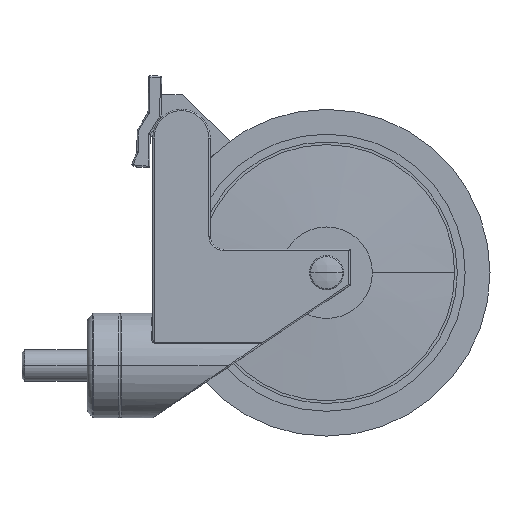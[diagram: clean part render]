
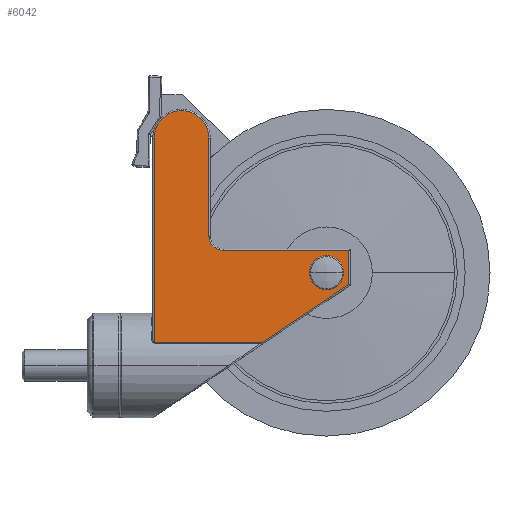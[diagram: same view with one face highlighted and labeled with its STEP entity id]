
A CAD part, left-side view. The second image highlights one B-rep face of the part: STEP entity #6042.
In plain terms, the highlighted planar face has unit normal (-1, 0, 0).
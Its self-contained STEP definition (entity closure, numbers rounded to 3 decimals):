
#186 = CARTESIAN_POINT ( 'NONE',  ( -18., 97.5, 36. ) ) ;
#214 = CARTESIAN_POINT ( 'NONE',  ( -18., 30.969, 100. ) ) ;
#215 = CARTESIAN_POINT ( 'NONE',  ( -18., 8.832, 67.036 ) ) ;
#216 = CARTESIAN_POINT ( 'NONE',  ( -18., 8.832, 25.5 ) ) ;
#217 = CARTESIAN_POINT ( 'NONE',  ( -18., 87., 25.5 ) ) ;
#218 = CARTESIAN_POINT ( 'NONE',  ( -18., 87., 46.5 ) ) ;
#219 = CARTESIAN_POINT ( 'NONE',  ( -18., 49.5, 46.5 ) ) ;
#220 = CARTESIAN_POINT ( 'NONE',  ( -18., 44., 52. ) ) ;
#221 = CARTESIAN_POINT ( 'NONE',  ( -18., 44., 100. ) ) ;
#274 = CARTESIAN_POINT ( 'NONE',  ( -18., 42., 91.5 ) ) ;
#275 = CARTESIAN_POINT ( 'NONE',  ( -18., 29., 91.5 ) ) ;
#1414 = PLANE ( 'NONE',  #3585 ) ;
#1417 = CARTESIAN_POINT ( 'NONE',  ( -18., 98., 258.403 ) ) ;
#1429 = DIRECTION ( 'NONE',  ( -1., 0., 0. ) ) ;
#1430 = DIRECTION ( 'NONE',  ( 0., -1., 0. ) ) ;
#2609 = EDGE_LOOP ( 'NONE', ( #4983, #4984 ) ) ;
#2613 = EDGE_LOOP ( 'NONE', ( #4974, #4975, #4976, #4977, #4978, #4979, #4980, #4981, #4982 ) ) ;
#2856 = EDGE_CURVE ( 'NONE', #4449, #4445, #5038, .T. ) ;
#2918 = EDGE_CURVE ( 'NONE', #3746, #3743, #5122, .T. ) ;
#2920 = EDGE_CURVE ( 'NONE', #3743, #3740, #5104, .T. ) ;
#2921 = EDGE_CURVE ( 'NONE', #3753, #3750, #5125, .T. ) ;
#2922 = EDGE_CURVE ( 'NONE', #3755, #3753, #5129, .T. ) ;
#2923 = EDGE_CURVE ( 'NONE', #3855, #3755, #5117, .T. ) ;
#2924 = EDGE_CURVE ( 'NONE', #3750, #3746, #5130, .T. ) ;
#2925 = EDGE_CURVE ( 'NONE', #3740, #3737, #5120, .T. ) ;
#2926 = EDGE_CURVE ( 'NONE', #3737, #3734, #5131, .T. ) ;
#2927 = EDGE_CURVE ( 'NONE', #3734, #3855, #5133, .T. ) ;
#2929 = EDGE_CURVE ( 'NONE', #4445, #4449, #5138, .T. ) ;
#3271 = AXIS2_PLACEMENT_3D ( 'NONE', #4564, #4551, #4550 ) ;
#3297 = AXIS2_PLACEMENT_3D ( 'NONE', #4281, #4280, #4279 ) ;
#3300 = AXIS2_PLACEMENT_3D ( 'NONE', #4255, #4253, #4252 ) ;
#3301 = AXIS2_PLACEMENT_3D ( 'NONE', #4288, #4270, #4269 ) ;
#3303 = AXIS2_PLACEMENT_3D ( 'NONE', #4277, #4266, #4265 ) ;
#3585 = AXIS2_PLACEMENT_3D ( 'NONE', #1417, #1429, #1430 ) ;
#3734 = VERTEX_POINT ( 'NONE', #214 ) ;
#3737 = VERTEX_POINT ( 'NONE', #215 ) ;
#3740 = VERTEX_POINT ( 'NONE', #216 ) ;
#3743 = VERTEX_POINT ( 'NONE', #217 ) ;
#3746 = VERTEX_POINT ( 'NONE', #186 ) ;
#3750 = VERTEX_POINT ( 'NONE', #218 ) ;
#3753 = VERTEX_POINT ( 'NONE', #219 ) ;
#3755 = VERTEX_POINT ( 'NONE', #220 ) ;
#3855 = VERTEX_POINT ( 'NONE', #221 ) ;
#4252 = DIRECTION ( 'NONE',  ( 0., -1., 0. ) ) ;
#4253 = DIRECTION ( 'NONE',  ( -1., 0., 0. ) ) ;
#4255 = CARTESIAN_POINT ( 'NONE',  ( -18., 35.5, 91.5 ) ) ;
#4259 = DIRECTION ( 'NONE',  ( 0., 1., 0. ) ) ;
#4260 = CARTESIAN_POINT ( 'NONE',  ( -18., 44.5, 100. ) ) ;
#4261 = DIRECTION ( 'NONE',  ( 0., 0.558, 0.83 ) ) ;
#4262 = CARTESIAN_POINT ( 'NONE',  ( -18., 31.118, 100.221 ) ) ;
#4263 = DIRECTION ( 'NONE',  ( 0., 0., 1. ) ) ;
#4264 = CARTESIAN_POINT ( 'NONE',  ( -18., 8.832, 258.403 ) ) ;
#4265 = DIRECTION ( 'NONE',  ( 0., -1., 0. ) ) ;
#4266 = DIRECTION ( 'NONE',  ( -1., 0., 0. ) ) ;
#4267 = DIRECTION ( 'NONE',  ( 0., 0., -1. ) ) ;
#4268 = CARTESIAN_POINT ( 'NONE',  ( -18., 44., 52. ) ) ;
#4269 = DIRECTION ( 'NONE',  ( 0., -1., 0. ) ) ;
#4270 = DIRECTION ( 'NONE',  ( 1., 0., 0. ) ) ;
#4271 = DIRECTION ( 'NONE',  ( 0., 1., 0. ) ) ;
#4272 = CARTESIAN_POINT ( 'NONE',  ( -18., 87., 46.5 ) ) ;
#4273 = DIRECTION ( 'NONE',  ( 0., -1., 0. ) ) ;
#4274 = CARTESIAN_POINT ( 'NONE',  ( -18., 8.718, 25.5 ) ) ;
#4277 = CARTESIAN_POINT ( 'NONE',  ( -18., 87., 36. ) ) ;
#4279 = DIRECTION ( 'NONE',  ( 0., -1., 0. ) ) ;
#4280 = DIRECTION ( 'NONE',  ( -1., 0., 0. ) ) ;
#4281 = CARTESIAN_POINT ( 'NONE',  ( -18., 87., 36. ) ) ;
#4288 = CARTESIAN_POINT ( 'NONE',  ( -18., 49.5, 52. ) ) ;
#4445 = VERTEX_POINT ( 'NONE', #274 ) ;
#4449 = VERTEX_POINT ( 'NONE', #275 ) ;
#4550 = DIRECTION ( 'NONE',  ( 0., -1., 0. ) ) ;
#4551 = DIRECTION ( 'NONE',  ( -1., 0., 0. ) ) ;
#4564 = CARTESIAN_POINT ( 'NONE',  ( -18., 35.5, 91.5 ) ) ;
#4974 = ORIENTED_EDGE ( 'NONE', *, *, #2923, .T. ) ;
#4975 = ORIENTED_EDGE ( 'NONE', *, *, #2922, .T. ) ;
#4976 = ORIENTED_EDGE ( 'NONE', *, *, #2921, .T. ) ;
#4977 = ORIENTED_EDGE ( 'NONE', *, *, #2924, .T. ) ;
#4978 = ORIENTED_EDGE ( 'NONE', *, *, #2918, .T. ) ;
#4979 = ORIENTED_EDGE ( 'NONE', *, *, #2920, .T. ) ;
#4980 = ORIENTED_EDGE ( 'NONE', *, *, #2925, .T. ) ;
#4981 = ORIENTED_EDGE ( 'NONE', *, *, #2926, .T. ) ;
#4982 = ORIENTED_EDGE ( 'NONE', *, *, #2927, .T. ) ;
#4983 = ORIENTED_EDGE ( 'NONE', *, *, #2929, .F. ) ;
#4984 = ORIENTED_EDGE ( 'NONE', *, *, #2856, .F. ) ;
#5038 = CIRCLE ( 'NONE', #3271, 6.5 ) ;
#5104 = LINE ( 'NONE', #4274, #5118 ) ;
#5117 = LINE ( 'NONE', #4268, #5123 ) ;
#5118 = VECTOR ( 'NONE', #4273, 1000. ) ;
#5120 = LINE ( 'NONE', #4264, #5128 ) ;
#5122 = CIRCLE ( 'NONE', #3297, 10.5 ) ;
#5123 = VECTOR ( 'NONE', #4267, 1000. ) ;
#5125 = LINE ( 'NONE', #4272, #5126 ) ;
#5126 = VECTOR ( 'NONE', #4271, 1000. ) ;
#5128 = VECTOR ( 'NONE', #4263, 1000. ) ;
#5129 = CIRCLE ( 'NONE', #3301, 5.5 ) ;
#5130 = CIRCLE ( 'NONE', #3303, 10.5 ) ;
#5131 = LINE ( 'NONE', #4262, #5132 ) ;
#5132 = VECTOR ( 'NONE', #4261, 1000. ) ;
#5133 = LINE ( 'NONE', #4260, #5134 ) ;
#5134 = VECTOR ( 'NONE', #4259, 1000. ) ;
#5138 = CIRCLE ( 'NONE', #3300, 6.5 ) ;
#5843 = FACE_BOUND ( 'NONE', #2609, .T. ) ;
#5847 = FACE_OUTER_BOUND ( 'NONE', #2613, .T. ) ;
#6042 = ADVANCED_FACE ( 'NONE', ( #5847, #5843 ), #1414, .T. ) ;
